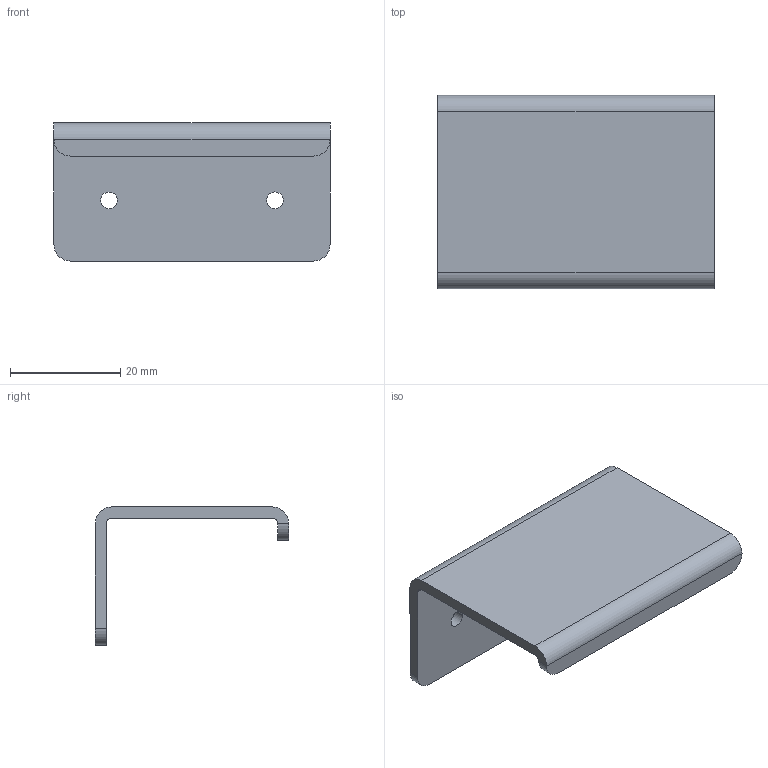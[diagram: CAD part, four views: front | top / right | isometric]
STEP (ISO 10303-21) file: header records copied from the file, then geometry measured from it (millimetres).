
FILE_DESCRIPTION((''),'2;1');
FILE_NAME('6445.stp','2023-10-10T10:14:10',(''),(''),'Mechanical Desktop 2006','Mechanical Desktop 2006',', , ');
FILE_SCHEMA(('CONFIG_CONTROL_DESIGN'));
Length unit declared in the file: millimetre
Products named in the file (1): Product
Bounding box: 50 x 35 x 25 mm (x, y, z)
Volume: 5984.6 mm3; surface area: 6453.1 mm2
Topology: 1 solids, 1 shells, 22 faces, 56 edges, 36 vertices
Faces by surface type: cylinder 12, plane 10
Entity records: 775 total; most frequent: DIRECTION 126, CARTESIAN_POINT 115, ORIENTED_EDGE 112, EDGE_CURVE 56, AXIS2_PLACEMENT_3D 47, VERTEX_POINT 36, VECTOR 32, LINE 32
